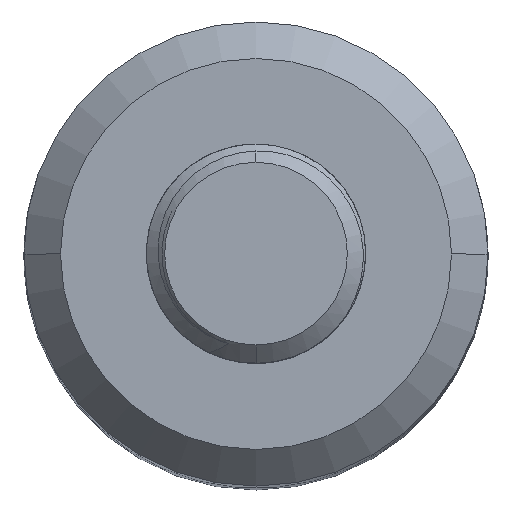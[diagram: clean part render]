
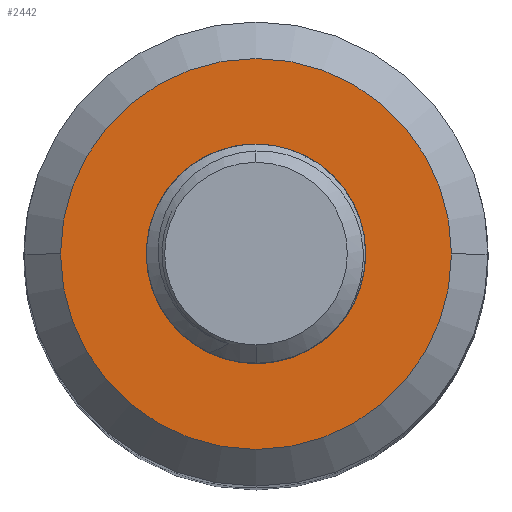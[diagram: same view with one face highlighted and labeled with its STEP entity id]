
A CAD part, top view. The second image highlights one B-rep face of the part: STEP entity #2442.
In plain terms, the highlighted planar face has unit normal (0, 0, 1).
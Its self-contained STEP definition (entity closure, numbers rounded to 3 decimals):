
#245=CARTESIAN_POINT('',(0.,0.,63.5));
#246=DIRECTION('',(0.,0.,1.));
#247=DIRECTION('',(-1.,0.,0.));
#248=AXIS2_PLACEMENT_3D('',#245,#246,#247);
#250=CARTESIAN_POINT('',(0.,0.,63.5));
#251=DIRECTION('',(0.,0.,1.));
#252=DIRECTION('',(1.,0.,0.));
#253=AXIS2_PLACEMENT_3D('',#250,#251,#252);
#255=CARTESIAN_POINT('',(0.,0.,63.5));
#256=DIRECTION('',(0.,0.,-1.));
#257=DIRECTION('',(0.,1.,0.));
#258=AXIS2_PLACEMENT_3D('',#255,#256,#257);
#260=CARTESIAN_POINT('',(0.,0.,63.5));
#261=DIRECTION('',(0.,0.,-1.));
#262=DIRECTION('',(0.,-1.,0.));
#263=AXIS2_PLACEMENT_3D('',#260,#261,#262);
#2075=CARTESIAN_POINT('',(-5.35,0.,63.5));
#2076=CARTESIAN_POINT('',(5.35,0.,63.5));
#2077=VERTEX_POINT('',#2075);
#2078=VERTEX_POINT('',#2076);
#2119=CARTESIAN_POINT('',(0.,2.,63.5));
#2120=CARTESIAN_POINT('',(0.,-2.,63.5));
#2121=VERTEX_POINT('',#2119);
#2122=VERTEX_POINT('',#2120);
#2426=CARTESIAN_POINT('',(0.,0.,63.5));
#2427=DIRECTION('',(0.,0.,1.));
#2428=DIRECTION('',(1.,0.,0.));
#2429=AXIS2_PLACEMENT_3D('',#2426,#2427,#2428);
#2430=PLANE('',#2429);
#2431=ORIENTED_EDGE('',*,*,#2416,.F.);
#2433=ORIENTED_EDGE('',*,*,#2432,.F.);
#2434=EDGE_LOOP('',(#2431,#2433));
#2435=FACE_OUTER_BOUND('',#2434,.F.);
#2437=ORIENTED_EDGE('',*,*,#2436,.F.);
#2439=ORIENTED_EDGE('',*,*,#2438,.F.);
#2440=EDGE_LOOP('',(#2437,#2439));
#2441=FACE_BOUND('',#2440,.F.);
#2442=ADVANCED_FACE('',(#2435,#2441),#2430,.T.);
#249=CIRCLE('',#248,5.35);
#254=CIRCLE('',#253,5.35);
#259=CIRCLE('',#258,2.);
#264=CIRCLE('',#263,2.);
#2416=EDGE_CURVE('',#2077,#2078,#249,.T.);
#2432=EDGE_CURVE('',#2078,#2077,#254,.T.);
#2436=EDGE_CURVE('',#2121,#2122,#259,.T.);
#2438=EDGE_CURVE('',#2122,#2121,#264,.T.);
